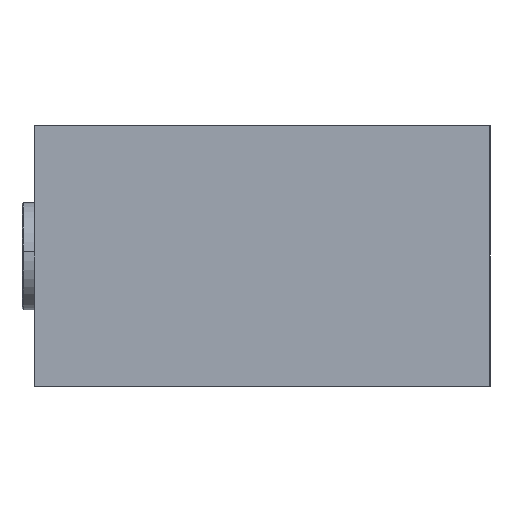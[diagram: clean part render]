
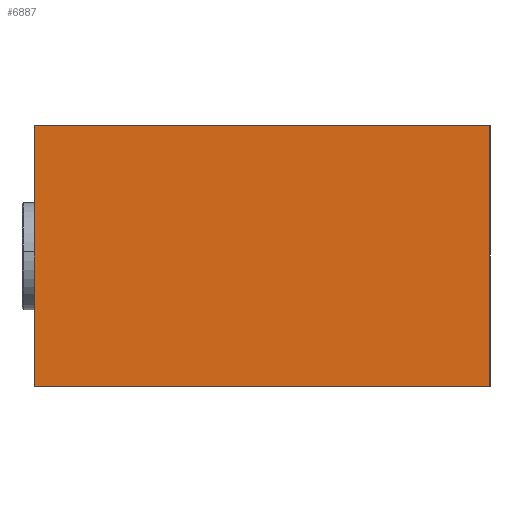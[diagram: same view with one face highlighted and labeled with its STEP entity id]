
A CAD part, left-side view. The second image highlights one B-rep face of the part: STEP entity #6887.
In plain terms, the highlighted planar face has unit normal (-1, 0, 0).
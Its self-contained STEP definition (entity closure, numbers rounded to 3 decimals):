
#306 = VERTEX_POINT ( 'NONE', #3351 ) ;
#422 = EDGE_CURVE ( 'NONE', #306, #6522, #6470, .T. ) ;
#424 = LINE ( 'NONE', #5086, #7906 ) ;
#454 = VECTOR ( 'NONE', #5030, 1000. ) ;
#647 = DIRECTION ( 'NONE',  ( -1., 0., 0. ) ) ;
#689 = VECTOR ( 'NONE', #4344, 1000. ) ;
#913 = VERTEX_POINT ( 'NONE', #6244 ) ;
#1084 = VERTEX_POINT ( 'NONE', #5781 ) ;
#1563 = VECTOR ( 'NONE', #6505, 1000. ) ;
#1888 = EDGE_LOOP ( 'NONE', ( #6632, #9013, #8134, #5146 ) ) ;
#1986 = AXIS2_PLACEMENT_3D ( 'NONE', #7818, #647, #7850 ) ;
#1987 = PLANE ( 'NONE',  #1986 ) ;
#2135 = LINE ( 'NONE', #8556, #689 ) ;
#3198 = EDGE_CURVE ( 'NONE', #306, #913, #2135, .T. ) ;
#3207 = EDGE_CURVE ( 'NONE', #6522, #1084, #5915, .T. ) ;
#3351 = CARTESIAN_POINT ( 'NONE',  ( -15., -17.5, 20. ) ) ;
#4344 = DIRECTION ( 'NONE',  ( 0., 0., -1. ) ) ;
#4952 = FACE_OUTER_BOUND ( 'NONE', #1888, .T. ) ;
#5030 = DIRECTION ( 'NONE',  ( 0., 1., 0. ) ) ;
#5086 = CARTESIAN_POINT ( 'NONE',  ( -15., 0., 0. ) ) ;
#5146 = ORIENTED_EDGE ( 'NONE', *, *, #3207, .T. ) ;
#5781 = CARTESIAN_POINT ( 'NONE',  ( -15., 17.5, 0. ) ) ;
#5915 = LINE ( 'NONE', #7242, #1563 ) ;
#6244 = CARTESIAN_POINT ( 'NONE',  ( -15., -17.5, 0. ) ) ;
#6470 = LINE ( 'NONE', #6495, #454 ) ;
#6495 = CARTESIAN_POINT ( 'NONE',  ( -15., 0., 20. ) ) ;
#6505 = DIRECTION ( 'NONE',  ( 0., 0., -1. ) ) ;
#6522 = VERTEX_POINT ( 'NONE', #7911 ) ;
#6529 = EDGE_CURVE ( 'NONE', #913, #1084, #424, .T. ) ;
#6632 = ORIENTED_EDGE ( 'NONE', *, *, #6529, .F. ) ;
#6887 = ADVANCED_FACE ( 'NONE', ( #4952 ), #1987, .T. ) ;
#7226 = DIRECTION ( 'NONE',  ( 0., 1., 0. ) ) ;
#7242 = CARTESIAN_POINT ( 'NONE',  ( -15., 17.5, 20. ) ) ;
#7818 = CARTESIAN_POINT ( 'NONE',  ( -15., 0., 20. ) ) ;
#7850 = DIRECTION ( 'NONE',  ( 0., 0., 1. ) ) ;
#7906 = VECTOR ( 'NONE', #7226, 1000. ) ;
#7911 = CARTESIAN_POINT ( 'NONE',  ( -15., 17.5, 20. ) ) ;
#8134 = ORIENTED_EDGE ( 'NONE', *, *, #422, .T. ) ;
#8556 = CARTESIAN_POINT ( 'NONE',  ( -15., -17.5, 20. ) ) ;
#9013 = ORIENTED_EDGE ( 'NONE', *, *, #3198, .F. ) ;
